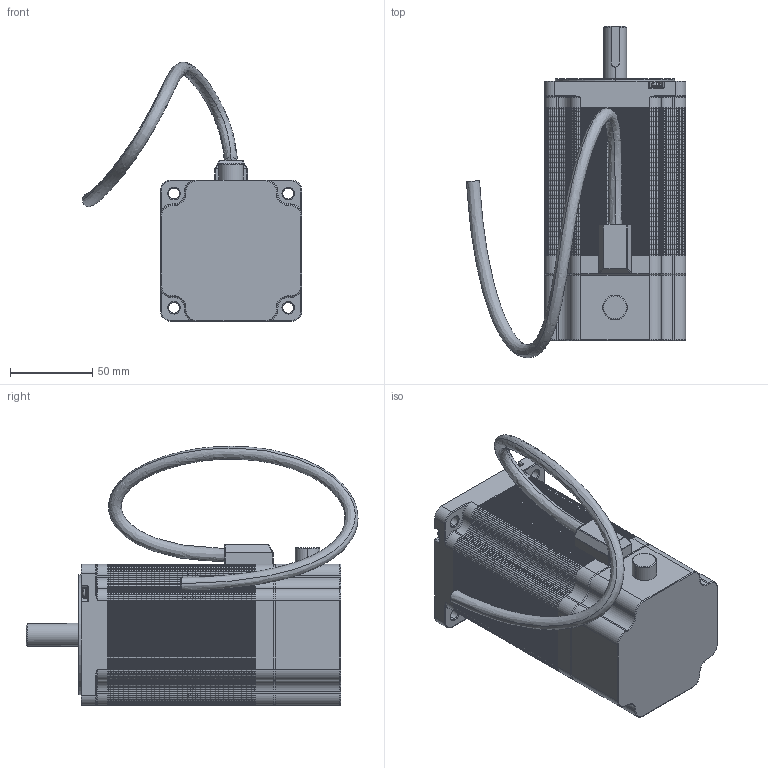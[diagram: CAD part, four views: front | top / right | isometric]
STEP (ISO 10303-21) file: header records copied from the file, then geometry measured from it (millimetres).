
FILE_DESCRIPTION (( 'STEP AP214' ), '1' );
FILE_NAME ('NEMA34_118mm_14mm_shaft_key_BRK.STEP', '2020-11-16T05:49:44', ( 'Moofasta' ), ( '' ), 'SwSTEP 2.0', 'SolidWorks 2020', '' );
FILE_SCHEMA (( 'AUTOMOTIVE_DESIGN' ));
Length unit declared in the file: millimetre
Products named in the file (1): NEMA34_118mm_14mm_shaft_key_BRK
Bounding box: 133.66 x 202.33 x 158.15 mm (x, y, z)
Volume: 1067122.8 mm3; surface area: 1250153.7 mm2
Topology: 104 solids, 104 shells, 7451 faces, 17073 edges, 9820 vertices
Faces by surface type: plane 3708, cone 2164, cylinder 1313, bspline 126, torus 117, sphere 23
Entity records: 288087 total; most frequent: CARTESIAN_POINT 42539, DIRECTION 36274, ORIENTED_EDGE 34064, EDGE_CURVE 17032, AXIS2_PLACEMENT_3D 12269, VECTOR 11736, LINE 11736, VERTEX_POINT 9820
